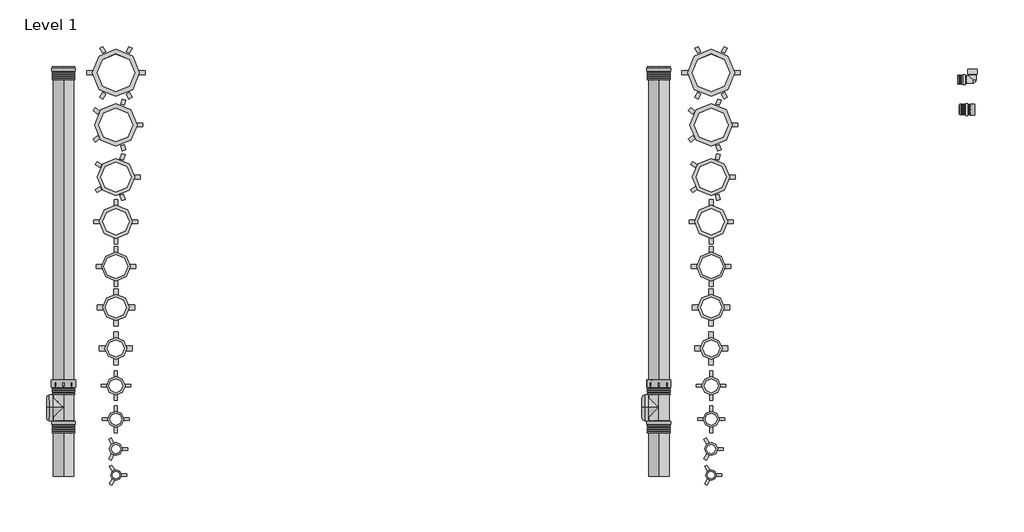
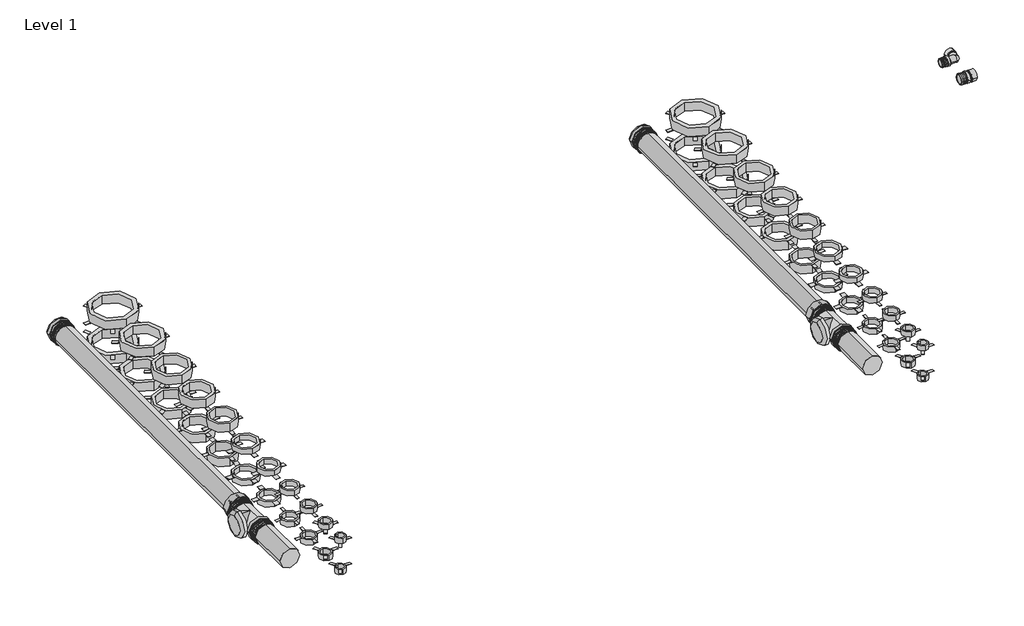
# One storey, incomplete: 44 proxies, 10 pipe fittings, 4 pipe segments.
"""IFC4 building model written with IfcOpenShell, lengths in millimetres."""

from ifc_helpers import new_model, si_unit, point, frame, frame_2d, origin, place, context, project, spatial, circle_curve, trimmed, segment, composite_curve, outline, extrude, transform, mapped, element, save
from components import dn_110_31cb750b, dn_125_ca2b448a, dn_140_c881df7a, dn_160_368857a8, dn_180_1f1de15e, dn_200_3af189cd, dn_40_852e5add, dn_50_013501fe, dn_63_0941c4dd, dn_75_5bf1040d, dn_90_ac1121be, socket_end_055a691a, socket_end_d7354801, socket_end_516246a1, socket_end_08c51249, var_eee4e819, var_99ec99a2, var_4d6ae992

model = new_model("IFC4")

# Units and contexts
model_context = context("Model", 3, world=origin())
ifc_project = project(units=[si_unit("LENGTHUNIT", "METRE", prefix="MILLI")], contexts=[model_context])

# Site, building, storey
site = spatial("IfcSite", under=ifc_project)
building = spatial("IfcBuilding", under=site)
storey = spatial("IfcBuildingStorey", under=building, Name="Level 1", Elevation=0.0)

# Proxies
placement = place(None, origin())
dn_110_shape = dn_110_31cb750b(model_context)
element("IfcBuildingElementProxy", 1, Name="Wavin Brandmanschette für Decken : DN 110", ObjectType="Wavin Brandmanschette für Decken : DN 110", at=placement, inside=storey, context=model_context, shape_type="MappedRepresentation", body=[
    mapped(dn_110_shape, transform((-13.9462782, 6581.1461079, 100.8737699), x_axis=(0.0, 1.0, 0.0), y_axis=(-1.0, 0.0, 0.0), z_axis=(0.0, 0.0, 1.0))),
])
element("IfcBuildingElementProxy", 2, Name="Wavin Brandmanschette für Decken : DN 110", ObjectType="Wavin Brandmanschette für Decken : DN 110", at=placement, inside=storey, context=model_context, shape_type="MappedRepresentation", body=[
    mapped(dn_110_shape, transform((-13.9462782, 6581.1461079, -49.1262301), x_axis=(0.0, -1.0, 0.0), y_axis=(-1.0, 0.0, 0.0), z_axis=(0.0, 0.0, -1.0))),
])
element("IfcBuildingElementProxy", 3, Name="Wavin Brandmanschette für Decken : DN 110", ObjectType="Wavin Brandmanschette für Decken : DN 110", at=placement, inside=storey, context=model_context, shape_type="MappedRepresentation", body=[
    mapped(dn_110_shape, transform((3178.9345183, 6581.1461079, 100.8737699), x_axis=(0.0, 1.0, 0.0), y_axis=(-1.0, 0.0, 0.0), z_axis=(0.0, 0.0, 1.0))),
])
element("IfcBuildingElementProxy", 4, Name="Wavin Brandmanschette für Decken : DN 110", ObjectType="Wavin Brandmanschette für Decken : DN 110", at=placement, inside=storey, context=model_context, shape_type="MappedRepresentation", body=[
    mapped(dn_110_shape, transform((3178.9345183, 6581.1461079, -49.1262301), x_axis=(0.0, -1.0, 0.0), y_axis=(-1.0, 0.0, 0.0), z_axis=(0.0, 0.0, -1.0))),
])
dn_125_shape = dn_125_ca2b448a(model_context)
element("IfcBuildingElementProxy", 5, Name="Wavin Brandmanschette für Decken : DN 125", ObjectType="Wavin Brandmanschette für Decken : DN 125", at=placement, inside=storey, context=model_context, shape_type="MappedRepresentation", body=[
    mapped(dn_125_shape, transform((-13.9462782, 6801.1461079, 100.8737699), x_axis=(0.0, 1.0, 0.0), y_axis=(-1.0, 0.0, 0.0), z_axis=(0.0, 0.0, 1.0))),
])
element("IfcBuildingElementProxy", 6, Name="Wavin Brandmanschette für Decken : DN 125", ObjectType="Wavin Brandmanschette für Decken : DN 125", at=placement, inside=storey, context=model_context, shape_type="MappedRepresentation", body=[
    mapped(dn_125_shape, transform((-13.9462782, 6801.1461079, -49.1262301), x_axis=(0.0, -1.0, 0.0), y_axis=(-1.0, 0.0, 0.0), z_axis=(0.0, 0.0, -1.0))),
])
element("IfcBuildingElementProxy", 7, Name="Wavin Brandmanschette für Decken : DN 125", ObjectType="Wavin Brandmanschette für Decken : DN 125", at=placement, inside=storey, context=model_context, shape_type="MappedRepresentation", body=[
    mapped(dn_125_shape, transform((3178.9345183, 6801.1461079, 100.8737699), x_axis=(0.0, 1.0, 0.0), y_axis=(-1.0, 0.0, 0.0), z_axis=(0.0, 0.0, 1.0))),
])
element("IfcBuildingElementProxy", 8, Name="Wavin Brandmanschette für Decken : DN 125", ObjectType="Wavin Brandmanschette für Decken : DN 125", at=placement, inside=storey, context=model_context, shape_type="MappedRepresentation", body=[
    mapped(dn_125_shape, transform((3178.9345183, 6801.1461079, -49.1262301), x_axis=(0.0, -1.0, 0.0), y_axis=(-1.0, 0.0, 0.0), z_axis=(0.0, 0.0, -1.0))),
])
dn_140_shape = dn_140_c881df7a(model_context)
element("IfcBuildingElementProxy", 9, Name="Wavin Brandmanschette für Decken : DN 140", ObjectType="Wavin Brandmanschette für Decken : DN 140", at=placement, inside=storey, context=model_context, shape_type="MappedRepresentation", body=[
    mapped(dn_140_shape, transform((-13.9462782, 7041.1461079, 100.8737699), x_axis=(0.0, 1.0, 0.0), y_axis=(-1.0, 0.0, 0.0), z_axis=(0.0, 0.0, 1.0))),
])
element("IfcBuildingElementProxy", 10, Name="Wavin Brandmanschette für Decken : DN 140", ObjectType="Wavin Brandmanschette für Decken : DN 140", at=placement, inside=storey, context=model_context, shape_type="MappedRepresentation", body=[
    mapped(dn_140_shape, transform((-13.9462782, 7041.1461079, -49.1262301), x_axis=(0.0, -1.0, 0.0), y_axis=(-1.0, 0.0, 0.0), z_axis=(0.0, 0.0, -1.0))),
])
element("IfcBuildingElementProxy", 11, Name="Wavin Brandmanschette für Decken : DN 140", ObjectType="Wavin Brandmanschette für Decken : DN 140", at=placement, inside=storey, context=model_context, shape_type="MappedRepresentation", body=[
    mapped(dn_140_shape, transform((3178.9345183, 7041.1461079, 100.8737699), x_axis=(0.0, 1.0, 0.0), y_axis=(-1.0, 0.0, 0.0), z_axis=(0.0, 0.0, 1.0))),
])
element("IfcBuildingElementProxy", 12, Name="Wavin Brandmanschette für Decken : DN 140", ObjectType="Wavin Brandmanschette für Decken : DN 140", at=placement, inside=storey, context=model_context, shape_type="MappedRepresentation", body=[
    mapped(dn_140_shape, transform((3178.9345183, 7041.1461079, -49.1262301), x_axis=(0.0, -1.0, 0.0), y_axis=(-1.0, 0.0, 0.0), z_axis=(0.0, 0.0, -1.0))),
])
dn_160_shape = dn_160_368857a8(model_context)
element("IfcBuildingElementProxy", 13, Name="Wavin Brandmanschette für Decken : DN 160", ObjectType="Wavin Brandmanschette für Decken : DN 160", at=placement, inside=storey, context=model_context, shape_type="MappedRepresentation", body=[
    mapped(dn_160_shape, transform((-13.9462782, 7281.1461079, 100.8737699), x_axis=(0.0, 1.0, 0.0), y_axis=(-1.0, 0.0, 0.0), z_axis=(0.0, 0.0, 1.0))),
])
element("IfcBuildingElementProxy", 14, Name="Wavin Brandmanschette für Decken : DN 160", ObjectType="Wavin Brandmanschette für Decken : DN 160", at=placement, inside=storey, context=model_context, shape_type="MappedRepresentation", body=[
    mapped(dn_160_shape, transform((-13.9462782, 7281.1461079, -49.1262301), x_axis=(0.0, -1.0, 0.0), y_axis=(-1.0, 0.0, 0.0), z_axis=(0.0, 0.0, -1.0))),
])
element("IfcBuildingElementProxy", 15, Name="Wavin Brandmanschette für Decken : DN 160", ObjectType="Wavin Brandmanschette für Decken : DN 160", at=placement, inside=storey, context=model_context, shape_type="MappedRepresentation", body=[
    mapped(dn_160_shape, transform((3178.9345183, 7281.1461079, 100.8737699), x_axis=(0.0, 1.0, 0.0), y_axis=(-1.0, 0.0, 0.0), z_axis=(0.0, 0.0, 1.0))),
])
element("IfcBuildingElementProxy", 16, Name="Wavin Brandmanschette für Decken : DN 160", ObjectType="Wavin Brandmanschette für Decken : DN 160", at=placement, inside=storey, context=model_context, shape_type="MappedRepresentation", body=[
    mapped(dn_160_shape, transform((3178.9345183, 7281.1461079, -49.1262301), x_axis=(0.0, -1.0, 0.0), y_axis=(-1.0, 0.0, 0.0), z_axis=(0.0, 0.0, -1.0))),
])
dn_180_shape = dn_180_1f1de15e(model_context)
element("IfcBuildingElementProxy", 17, Name="Wavin Brandmanschette für Decken : DN 180", ObjectType="Wavin Brandmanschette für Decken : DN 180", at=placement, inside=storey, context=model_context, shape_type="MappedRepresentation", body=[
    mapped(dn_180_shape, transform((-13.9462782, 7561.1461079, 100.8737699), x_axis=(0.0, 1.0, 0.0), y_axis=(-1.0, 0.0, 0.0), z_axis=(0.0, 0.0, 1.0))),
])
element("IfcBuildingElementProxy", 18, Name="Wavin Brandmanschette für Decken : DN 180", ObjectType="Wavin Brandmanschette für Decken : DN 180", at=placement, inside=storey, context=model_context, shape_type="MappedRepresentation", body=[
    mapped(dn_180_shape, transform((-13.9462782, 7561.1461079, -49.1262301), x_axis=(0.0, -1.0, 0.0), y_axis=(-1.0, 0.0, 0.0), z_axis=(0.0, 0.0, -1.0))),
])
element("IfcBuildingElementProxy", 19, Name="Wavin Brandmanschette für Decken : DN 180", ObjectType="Wavin Brandmanschette für Decken : DN 180", at=placement, inside=storey, context=model_context, shape_type="MappedRepresentation", body=[
    mapped(dn_180_shape, transform((3178.9345183, 7561.1461079, 100.8737699), x_axis=(0.0, 1.0, 0.0), y_axis=(-1.0, 0.0, 0.0), z_axis=(0.0, 0.0, 1.0))),
])
element("IfcBuildingElementProxy", 20, Name="Wavin Brandmanschette für Decken : DN 180", ObjectType="Wavin Brandmanschette für Decken : DN 180", at=placement, inside=storey, context=model_context, shape_type="MappedRepresentation", body=[
    mapped(dn_180_shape, transform((3178.9345183, 7561.1461079, -49.1262301), x_axis=(0.0, -1.0, 0.0), y_axis=(-1.0, 0.0, 0.0), z_axis=(0.0, 0.0, -1.0))),
])
dn_200_shape = dn_200_3af189cd(model_context)
element("IfcBuildingElementProxy", 21, Name="Wavin Brandmanschette für Decken : DN 200", ObjectType="Wavin Brandmanschette für Decken : DN 200", at=placement, inside=storey, context=model_context, shape_type="MappedRepresentation", body=[
    mapped(dn_200_shape, transform((-13.9462782, 7841.1461079, 100.8737699), x_axis=(0.0, 1.0, 0.0), y_axis=(-1.0, 0.0, 0.0), z_axis=(0.0, 0.0, 1.0))),
])
element("IfcBuildingElementProxy", 22, Name="Wavin Brandmanschette für Decken : DN 200", ObjectType="Wavin Brandmanschette für Decken : DN 200", at=placement, inside=storey, context=model_context, shape_type="MappedRepresentation", body=[
    mapped(dn_200_shape, transform((-13.9462782, 7841.1461079, -49.1262301), x_axis=(0.0, -1.0, 0.0), y_axis=(-1.0, 0.0, 0.0), z_axis=(0.0, 0.0, -1.0))),
])
element("IfcBuildingElementProxy", 23, Name="Wavin Brandmanschette für Decken : DN 200", ObjectType="Wavin Brandmanschette für Decken : DN 200", at=placement, inside=storey, context=model_context, shape_type="MappedRepresentation", body=[
    mapped(dn_200_shape, transform((3178.9345183, 7841.1461079, 100.8737699), x_axis=(0.0, 1.0, 0.0), y_axis=(-1.0, 0.0, 0.0), z_axis=(0.0, 0.0, 1.0))),
])
element("IfcBuildingElementProxy", 24, Name="Wavin Brandmanschette für Decken : DN 200", ObjectType="Wavin Brandmanschette für Decken : DN 200", at=placement, inside=storey, context=model_context, shape_type="MappedRepresentation", body=[
    mapped(dn_200_shape, transform((3178.9345183, 7841.1461079, -49.1262301), x_axis=(0.0, -1.0, 0.0), y_axis=(-1.0, 0.0, 0.0), z_axis=(0.0, 0.0, -1.0))),
])
dn_40_shape = dn_40_852e5add(model_context)
element("IfcBuildingElementProxy", 25, Name="Wavin Brandmanschette für Decken : DN 40", ObjectType="Wavin Brandmanschette für Decken : DN 40", at=placement, inside=storey, context=model_context, shape_type="MappedRepresentation", body=[
    mapped(dn_40_shape, transform((-13.9462782, 5681.1461079, 100.8737699), x_axis=(0.0, 1.0, 0.0), y_axis=(-1.0, 0.0, 0.0), z_axis=(0.0, 0.0, 1.0))),
])
element("IfcBuildingElementProxy", 26, Name="Wavin Brandmanschette für Decken : DN 40", ObjectType="Wavin Brandmanschette für Decken : DN 40", at=placement, inside=storey, context=model_context, shape_type="MappedRepresentation", body=[
    mapped(dn_40_shape, transform((-13.9462782, 5681.1461079, -49.1262301), x_axis=(0.0, -1.0, 0.0), y_axis=(-1.0, 0.0, 0.0), z_axis=(0.0, 0.0, -1.0))),
])
element("IfcBuildingElementProxy", 27, Name="Wavin Brandmanschette für Decken : DN 40", ObjectType="Wavin Brandmanschette für Decken : DN 40", at=placement, inside=storey, context=model_context, shape_type="MappedRepresentation", body=[
    mapped(dn_40_shape, transform((3178.9345183, 5681.1461079, 100.8737699), x_axis=(0.0, 1.0, 0.0), y_axis=(-1.0, 0.0, 0.0), z_axis=(0.0, 0.0, 1.0))),
])
element("IfcBuildingElementProxy", 28, Name="Wavin Brandmanschette für Decken : DN 40", ObjectType="Wavin Brandmanschette für Decken : DN 40", at=placement, inside=storey, context=model_context, shape_type="MappedRepresentation", body=[
    mapped(dn_40_shape, transform((3178.9345183, 5681.1461079, -49.1262301), x_axis=(0.0, -1.0, 0.0), y_axis=(-1.0, 0.0, 0.0), z_axis=(0.0, 0.0, -1.0))),
])
dn_50_shape = dn_50_013501fe(model_context)
element("IfcBuildingElementProxy", 29, Name="Wavin Brandmanschette für Decken : DN 50", ObjectType="Wavin Brandmanschette für Decken : DN 50", at=placement, inside=storey, context=model_context, shape_type="MappedRepresentation", body=[
    mapped(dn_50_shape, transform((-13.9462782, 5821.1461079, 100.8737699), x_axis=(0.0, 1.0, 0.0), y_axis=(-1.0, 0.0, 0.0), z_axis=(0.0, 0.0, 1.0))),
])
element("IfcBuildingElementProxy", 30, Name="Wavin Brandmanschette für Decken : DN 50", ObjectType="Wavin Brandmanschette für Decken : DN 50", at=placement, inside=storey, context=model_context, shape_type="MappedRepresentation", body=[
    mapped(dn_50_shape, transform((-13.9462782, 5821.1461079, -49.1262301), x_axis=(0.0, -1.0, 0.0), y_axis=(-1.0, 0.0, 0.0), z_axis=(0.0, 0.0, -1.0))),
])
element("IfcBuildingElementProxy", 31, Name="Wavin Brandmanschette für Decken : DN 50", ObjectType="Wavin Brandmanschette für Decken : DN 50", at=placement, inside=storey, context=model_context, shape_type="MappedRepresentation", body=[
    mapped(dn_50_shape, transform((3178.9345183, 5821.1461079, 100.8737699), x_axis=(0.0, 1.0, 0.0), y_axis=(-1.0, 0.0, 0.0), z_axis=(0.0, 0.0, 1.0))),
])
element("IfcBuildingElementProxy", 32, Name="Wavin Brandmanschette für Decken : DN 50", ObjectType="Wavin Brandmanschette für Decken : DN 50", at=placement, inside=storey, context=model_context, shape_type="MappedRepresentation", body=[
    mapped(dn_50_shape, transform((3178.9345183, 5821.1461079, -49.1262301), x_axis=(0.0, -1.0, 0.0), y_axis=(-1.0, 0.0, 0.0), z_axis=(0.0, 0.0, -1.0))),
])
dn_63_shape = dn_63_0941c4dd(model_context)
element("IfcBuildingElementProxy", 33, Name="Wavin Brandmanschette für Decken : DN 63", ObjectType="Wavin Brandmanschette für Decken : DN 63", at=placement, inside=storey, context=model_context, shape_type="MappedRepresentation", body=[
    mapped(dn_63_shape, transform((-13.9462782, 5981.1461079, 100.8737699), x_axis=(0.0, 1.0, 0.0), y_axis=(-1.0, 0.0, 0.0), z_axis=(0.0, 0.0, 1.0))),
])
element("IfcBuildingElementProxy", 34, Name="Wavin Brandmanschette für Decken : DN 63", ObjectType="Wavin Brandmanschette für Decken : DN 63", at=placement, inside=storey, context=model_context, shape_type="MappedRepresentation", body=[
    mapped(dn_63_shape, transform((-13.9462782, 5981.1461079, -49.1262301), x_axis=(0.0, -1.0, 0.0), y_axis=(-1.0, 0.0, 0.0), z_axis=(0.0, 0.0, -1.0))),
])
element("IfcBuildingElementProxy", 35, Name="Wavin Brandmanschette für Decken : DN 63", ObjectType="Wavin Brandmanschette für Decken : DN 63", at=placement, inside=storey, context=model_context, shape_type="MappedRepresentation", body=[
    mapped(dn_63_shape, transform((3178.9345183, 5981.1461079, 100.8737699), x_axis=(0.0, 1.0, 0.0), y_axis=(-1.0, 0.0, 0.0), z_axis=(0.0, 0.0, 1.0))),
])
element("IfcBuildingElementProxy", 36, Name="Wavin Brandmanschette für Decken : DN 63", ObjectType="Wavin Brandmanschette für Decken : DN 63", at=placement, inside=storey, context=model_context, shape_type="MappedRepresentation", body=[
    mapped(dn_63_shape, transform((3178.9345183, 5981.1461079, -49.1262301), x_axis=(0.0, -1.0, 0.0), y_axis=(-1.0, 0.0, 0.0), z_axis=(0.0, 0.0, -1.0))),
])
dn_75_shape = dn_75_5bf1040d(model_context)
element("IfcBuildingElementProxy", 37, Name="Wavin Brandmanschette für Decken : DN 75", ObjectType="Wavin Brandmanschette für Decken : DN 75", at=placement, inside=storey, context=model_context, shape_type="MappedRepresentation", body=[
    mapped(dn_75_shape, transform((-13.9462782, 6161.1461079, 100.8737699), x_axis=(0.0, 1.0, 0.0), y_axis=(-1.0, 0.0, 0.0), z_axis=(0.0, 0.0, 1.0))),
])
element("IfcBuildingElementProxy", 38, Name="Wavin Brandmanschette für Decken : DN 75", ObjectType="Wavin Brandmanschette für Decken : DN 75", at=placement, inside=storey, context=model_context, shape_type="MappedRepresentation", body=[
    mapped(dn_75_shape, transform((-13.9462782, 6161.1461079, -49.1262301), x_axis=(0.0, -1.0, 0.0), y_axis=(-1.0, 0.0, 0.0), z_axis=(0.0, 0.0, -1.0))),
])
element("IfcBuildingElementProxy", 39, Name="Wavin Brandmanschette für Decken : DN 75", ObjectType="Wavin Brandmanschette für Decken : DN 75", at=placement, inside=storey, context=model_context, shape_type="MappedRepresentation", body=[
    mapped(dn_75_shape, transform((3178.9345183, 6161.1461079, 100.8737699), x_axis=(0.0, 1.0, 0.0), y_axis=(-1.0, 0.0, 0.0), z_axis=(0.0, 0.0, 1.0))),
])
element("IfcBuildingElementProxy", 40, Name="Wavin Brandmanschette für Decken : DN 75", ObjectType="Wavin Brandmanschette für Decken : DN 75", at=placement, inside=storey, context=model_context, shape_type="MappedRepresentation", body=[
    mapped(dn_75_shape, transform((3178.9345183, 6161.1461079, -49.1262301), x_axis=(0.0, -1.0, 0.0), y_axis=(-1.0, 0.0, 0.0), z_axis=(0.0, 0.0, -1.0))),
])
dn_90_shape = dn_90_ac1121be(model_context)
element("IfcBuildingElementProxy", 41, Name="Wavin Brandmanschette für Decken : DN 90", ObjectType="Wavin Brandmanschette für Decken : DN 90", at=placement, inside=storey, context=model_context, shape_type="MappedRepresentation", body=[
    mapped(dn_90_shape, transform((-13.9462782, 6361.1461079, 100.8737699), x_axis=(0.0, 1.0, 0.0), y_axis=(-1.0, 0.0, 0.0), z_axis=(0.0, 0.0, 1.0))),
])
element("IfcBuildingElementProxy", 42, Name="Wavin Brandmanschette für Decken : DN 90", ObjectType="Wavin Brandmanschette für Decken : DN 90", at=placement, inside=storey, context=model_context, shape_type="MappedRepresentation", body=[
    mapped(dn_90_shape, transform((-13.9462782, 6361.1461079, -49.1262301), x_axis=(0.0, -1.0, 0.0), y_axis=(-1.0, 0.0, 0.0), z_axis=(0.0, 0.0, -1.0))),
])
element("IfcBuildingElementProxy", 43, Name="Wavin Brandmanschette für Decken : DN 90", ObjectType="Wavin Brandmanschette für Decken : DN 90", at=placement, inside=storey, context=model_context, shape_type="MappedRepresentation", body=[
    mapped(dn_90_shape, transform((3178.9345183, 6361.1461079, 100.8737699), x_axis=(0.0, 1.0, 0.0), y_axis=(-1.0, 0.0, 0.0), z_axis=(0.0, 0.0, 1.0))),
])
element("IfcBuildingElementProxy", 44, Name="Wavin Brandmanschette für Decken : DN 90", ObjectType="Wavin Brandmanschette für Decken : DN 90", at=placement, inside=storey, context=model_context, shape_type="MappedRepresentation", body=[
    mapped(dn_90_shape, transform((3178.9345183, 6361.1461079, -49.1262301), x_axis=(0.0, -1.0, 0.0), y_axis=(-1.0, 0.0, 0.0), z_axis=(0.0, 0.0, -1.0))),
])

# Pipe fittings
socket_end_shape = socket_end_055a691a(model_context)
element("IfcPipeFitting", 45, ObjectType="Wavin SiTech+ M Muffenstopfen : socket end", at=placement, inside=storey, context=model_context, shape_type="MappedRepresentation", body=[
    mapped(socket_end_shape, transform((-294.8568038, 7873.7887136, 100.0001966), x_axis=(0.0, 1.0, 0.0), y_axis=(-1.0, 0.0, 0.0), z_axis=(0.0, 0.0, 1.0))),
])
element("IfcPipeFitting", 46, ObjectType="Wavin SiTech+ M Muffenstopfen : socket end", at=placement, inside=storey, context=model_context, shape_type="MappedRepresentation", body=[
    mapped(socket_end_shape, transform((2898.0239927, 7873.7887136, 100.0001966), x_axis=(0.0, 1.0, 0.0), y_axis=(-1.0, 0.0, 0.0), z_axis=(0.0, 0.0, 1.0))),
])
socket_end_2_shape = socket_end_d7354801(model_context)
element("IfcPipeFitting", 47, ObjectType="Wavin SiTech+ RU Reinigungsrohr : socket end", at=placement, inside=storey, context=model_context, shape_type="MappedRepresentation", body=[
    mapped(socket_end_2_shape, transform((-294.8568038, 6043.530626, 100.0001966), x_axis=(0.0, 1.0, 0.0), y_axis=(-1.0, 0.0, 0.0), z_axis=(0.0, 0.0, 1.0))),
])
element("IfcPipeFitting", 48, ObjectType="Wavin SiTech+ RU Reinigungsrohr : socket end", at=placement, inside=storey, context=model_context, shape_type="MappedRepresentation", body=[
    mapped(socket_end_2_shape, transform((2898.0239927, 6043.530626, 100.0001966), x_axis=(0.0, 1.0, 0.0), y_axis=(-1.0, 0.0, 0.0), z_axis=(0.0, 0.0, 1.0))),
])
socket_end_3_shape = socket_end_516246a1(model_context)
element("IfcPipeFitting", 49, ObjectType="Wavin SiTech+ S Siphon Bogen (multiport) : socket_end", at=placement, inside=storey, context=model_context, shape_type="MappedRepresentation", body=[
    mapped(socket_end_3_shape, transform((4581.1747796, 7804.2887136, 0.0), x_axis=(1.0, 0.0, 0.0), y_axis=(0.0, 1.0, 0.0), z_axis=(0.0, 0.0, 1.0))),
])
socket_end_4_shape = socket_end_08c51249(model_context)
element("IfcPipeFitting", 50, ObjectType="Wavin SiTech+ S Siphon gerade (multiport) : socket_end", at=placement, inside=storey, context=model_context, shape_type="MappedRepresentation", body=[
    mapped(socket_end_4_shape, transform((4540.111505, 7643.45431, 0.0), x_axis=(1.0, 0.0, 0.0), y_axis=(0.0, 1.0, 0.0), z_axis=(0.0, 0.0, 1.0))),
])
var_shape = var_eee4e819(model_context)
element("IfcPipeFitting", 51, ObjectType="Wavin SiTech+ Z_DO_NOT_USE Haltekralle Typ LKS : var.", at=placement, inside=storey, context=model_context, shape_type="MappedRepresentation", body=[
    mapped(var_shape, transform((-294.8568038, 6115.530626, 100.0001966), x_axis=(0.0, -1.0, 0.0), y_axis=(1.0, 0.0, 0.0), z_axis=(0.0, 0.0, 1.0))),
])
element("IfcPipeFitting", 52, ObjectType="Wavin SiTech+ Z_DO_NOT_USE Haltekralle Typ LKS : var.", at=placement, inside=storey, context=model_context, shape_type="MappedRepresentation", body=[
    mapped(var_shape, transform((2898.0239927, 6115.530626, 100.0001966), x_axis=(0.0, -1.0, 0.0), y_axis=(1.0, 0.0, 0.0), z_axis=(0.0, 0.0, 1.0))),
])
var_2_shape = var_99ec99a2(model_context)
element("IfcPipeFitting", 53, ObjectType="Wavin SiTech+ Z_DO_NOT_USE_Transition Reducer Rubber : var.", at=placement, inside=storey, context=model_context, shape_type="MappedRepresentation", body=[
    mapped(var_2_shape, transform((4581.1747796, 7834.2887136, 0.0), x_axis=(0.0, 0.9999999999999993, 0.0), y_axis=(-0.9999999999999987, 0.0, 0.0), z_axis=(0.0, 0.0, 0.9999999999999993))),
])
var_3_shape = var_4d6ae992(model_context)
element("IfcPipeFitting", 54, ObjectType="Wavin SiTech+ Z_DO_NOT_USE_Transition Reducer Rubber : var.", at=placement, inside=storey, context=model_context, shape_type="MappedRepresentation", body=[
    mapped(var_3_shape, transform((4567.611505, 7643.45431, 0.0), x_axis=(1.0, 0.0, 0.0), y_axis=(0.0, 1.0, 0.0), z_axis=(0.0, 0.0, 1.0))),
])

# Pipe segments
element("IfcPipeSegment", 55, ObjectType="Wavin SiTech+ GL Rohr mit Muffe (DN)", at=placement, inside=storey, context=model_context, shape_type="SweptSolid", body=[
    extrude(outline(composite_curve([segment(trimmed(circle_curve(frame_2d((100.0001966, -294.8568038)), 55.0), [point((100.0001966, -349.8568038))], [point((45.0001966, -294.8568038))], False, "CARTESIAN"), True, "CONTINUOUS"), segment(trimmed(circle_curve(frame_2d((100.0001966, -294.8568038)), 55.0), [point((45.0001966, -294.8568038))], [point((100.0001966, -239.8568038))], False, "CARTESIAN"), True, "CONTINUOUS"), segment(trimmed(circle_curve(frame_2d((100.0001966, -294.8568038)), 55.0), [point((100.0001966, -239.8568038))], [point((155.0001966, -294.8568038))], False, "CARTESIAN"), True, "CONTINUOUS"), segment(trimmed(circle_curve(frame_2d((100.0001966, -294.8568038)), 55.0), [point((155.0001966, -294.8568038))], [point((100.0001966, -349.8568038))], False, "CARTESIAN"), True, "CONTINUOUS")], self_intersect=False)), frame((0.0, 5675.6239046, 0.0), z_axis=(0.0, 1.0, 0.0), x_axis=(0.0, 0.0, 1.0)), (0.0, 0.0, 1.0), 232.9067214),
])
element("IfcPipeSegment", 56, ObjectType="Wavin SiTech+ GL Rohr mit Muffe (DN)", at=placement, inside=storey, context=model_context, shape_type="SweptSolid", body=[
    extrude(outline(composite_curve([segment(trimmed(circle_curve(frame_2d((100.0001966, -294.8568038)), 55.0), [point((100.0001966, -349.8568038))], [point((45.0001966, -294.8568038))], False, "CARTESIAN"), True, "CONTINUOUS"), segment(trimmed(circle_curve(frame_2d((100.0001966, -294.8568038)), 55.0), [point((45.0001966, -294.8568038))], [point((100.0001966, -239.8568038))], False, "CARTESIAN"), True, "CONTINUOUS"), segment(trimmed(circle_curve(frame_2d((100.0001966, -294.8568038)), 55.0), [point((100.0001966, -239.8568038))], [point((155.0001966, -294.8568038))], False, "CARTESIAN"), True, "CONTINUOUS"), segment(trimmed(circle_curve(frame_2d((100.0001966, -294.8568038)), 55.0), [point((155.0001966, -294.8568038))], [point((100.0001966, -349.8568038))], False, "CARTESIAN"), True, "CONTINUOUS")], self_intersect=False)), frame((0.0, 6115.530626, 0.0), z_axis=(0.0, 1.0, 0.0), x_axis=(0.0, 0.0, 1.0)), (0.0, 0.0, 1.0), 1688.7580876),
])
element("IfcPipeSegment", 57, ObjectType="Wavin SiTech+ GL Rohr mit Muffe (OD)", at=placement, inside=storey, context=model_context, shape_type="SweptSolid", body=[
    extrude(outline(composite_curve([segment(trimmed(circle_curve(frame_2d((100.0001966, 2898.0239927)), 55.0), [point((100.0001966, 2843.0239927))], [point((45.0001966, 2898.0239927))], False, "CARTESIAN"), True, "CONTINUOUS"), segment(trimmed(circle_curve(frame_2d((100.0001966, 2898.0239927)), 55.0), [point((45.0001966, 2898.0239927))], [point((100.0001966, 2953.0239927))], False, "CARTESIAN"), True, "CONTINUOUS"), segment(trimmed(circle_curve(frame_2d((100.0001966, 2898.0239927)), 55.0), [point((100.0001966, 2953.0239927))], [point((155.0001966, 2898.0239927))], False, "CARTESIAN"), True, "CONTINUOUS"), segment(trimmed(circle_curve(frame_2d((100.0001966, 2898.0239927)), 55.0), [point((155.0001966, 2898.0239927))], [point((100.0001966, 2843.0239927))], False, "CARTESIAN"), True, "CONTINUOUS")], self_intersect=False)), frame((0.0, 5675.6239046, 0.0), z_axis=(0.0, 1.0, 0.0), x_axis=(0.0, 0.0, 1.0)), (0.0, 0.0, 1.0), 232.9067214),
])
element("IfcPipeSegment", 58, ObjectType="Wavin SiTech+ GL Rohr mit Muffe (OD)", at=placement, inside=storey, context=model_context, shape_type="SweptSolid", body=[
    extrude(outline(composite_curve([segment(trimmed(circle_curve(frame_2d((100.0001966, 2898.0239927)), 55.0), [point((100.0001966, 2843.0239927))], [point((45.0001966, 2898.0239927))], False, "CARTESIAN"), True, "CONTINUOUS"), segment(trimmed(circle_curve(frame_2d((100.0001966, 2898.0239927)), 55.0), [point((45.0001966, 2898.0239927))], [point((100.0001966, 2953.0239927))], False, "CARTESIAN"), True, "CONTINUOUS"), segment(trimmed(circle_curve(frame_2d((100.0001966, 2898.0239927)), 55.0), [point((100.0001966, 2953.0239927))], [point((155.0001966, 2898.0239927))], False, "CARTESIAN"), True, "CONTINUOUS"), segment(trimmed(circle_curve(frame_2d((100.0001966, 2898.0239927)), 55.0), [point((155.0001966, 2898.0239927))], [point((100.0001966, 2843.0239927))], False, "CARTESIAN"), True, "CONTINUOUS")], self_intersect=False)), frame((0.0, 6115.530626, 0.0), z_axis=(0.0, 1.0, 0.0), x_axis=(0.0, 0.0, 1.0)), (0.0, 0.0, 1.0), 1688.7580876),
])

save(model, "model.ifc")
